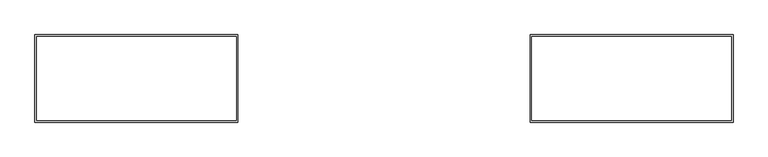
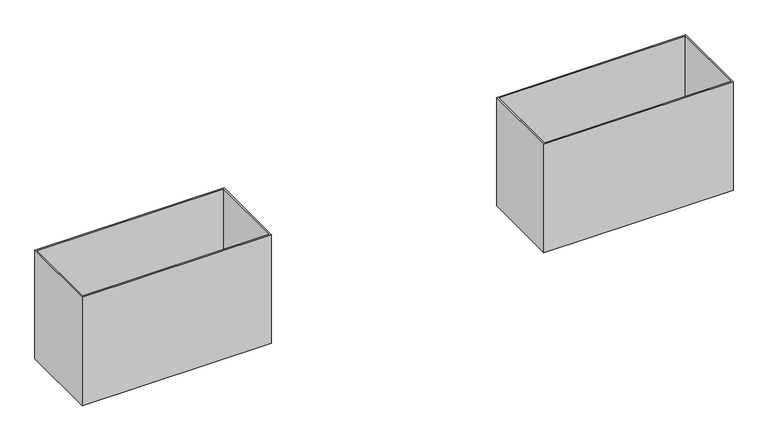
"""IFC4 building model written with IfcOpenShell, lengths in millimetres: furniture geometry, 家具系统 1 : 家具系统 1."""

from ifc_helpers import new_model, si_unit, origin, origin_with_axes, place, context, project, spatial, polyline, outline, extrude, source, transform, mapped, element, save


def furniture_a32c25fb(model_context):
    return source(origin(), model_context, "Body", "SweptSolid", [
        extrude(outline(polyline([(15067.3316161, 1574.535821), (16456.8526188, 1574.535821), (16456.8526188, 974.535821), (15067.3316161, 974.535821), (15067.3316161, 1574.535821)]), holes=[polyline([(15079.3316161, 1562.535821), (15079.3316161, 986.535821), (16444.8526188, 986.535821), (16444.8526188, 1562.535821), (15079.3316161, 1562.535821)])]), origin_with_axes(), (0.0, 0.0, 1.0), 840.95),
        extrude(outline(polyline([(13067.3316161, 1574.535821), (13067.3316161, 974.535821), (11677.8106133, 974.535821), (11677.8106133, 1574.535821), (13067.3316161, 1574.535821)]), holes=[polyline([(13055.3316161, 1562.535821), (11689.8106133, 1562.535821), (11689.8106133, 986.535821), (13055.3316161, 986.535821), (13055.3316161, 1562.535821)])]), origin_with_axes(), (0.0, 0.0, 1.0), 840.95),
    ])


if __name__ == "__main__":
    model = new_model("IFC4")
    model_context = context("Model", 3, world=origin())
    ifc_project = project(units=[si_unit("LENGTHUNIT", "METRE", prefix="MILLI")], contexts=[model_context])
    site = spatial("IfcSite", under=ifc_project)
    building = spatial("IfcBuilding", under=site)
    placement = place(None, origin())
    furniture_shape = furniture_a32c25fb(model_context)
    element("IfcFurniture", 1, ObjectType="家具系统 1 : 家具系统 1", at=placement, inside=building, context=model_context, shape_type="MappedRepresentation", body=[
        mapped(furniture_shape, transform((0.0, 0.0, 0.0), x_axis=(1.0, 0.0, 0.0), y_axis=(0.0, 1.0, 0.0), z_axis=(0.0, 0.0, 1.0))),
    ])
    save(model, "model.ifc")
